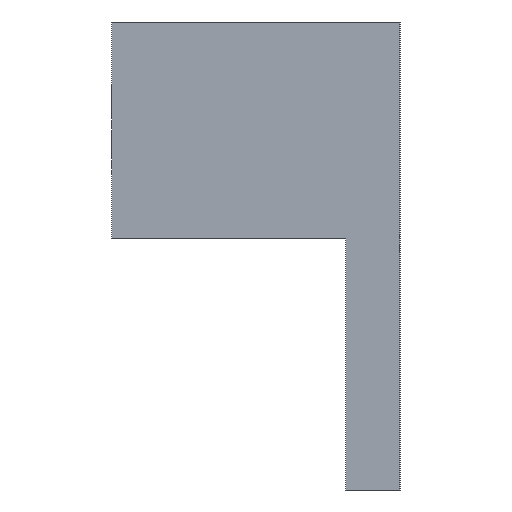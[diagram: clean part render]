
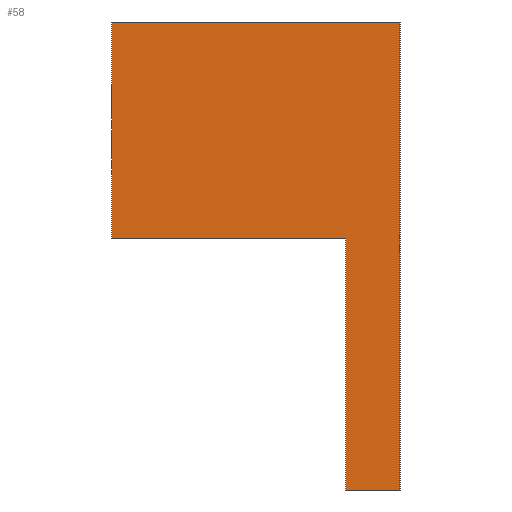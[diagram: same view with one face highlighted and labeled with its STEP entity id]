
A CAD part, left-side view. The second image highlights one B-rep face of the part: STEP entity #58.
In plain terms, the highlighted planar face has unit normal (-1, 0, 0).
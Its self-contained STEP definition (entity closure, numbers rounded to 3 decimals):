
#58 = ADVANCED_FACE( '', ( #114 ), #115, .F. );
#114 = FACE_OUTER_BOUND( '', #161, .T. );
#115 = PLANE( '', #162 );
#161 = EDGE_LOOP( '', ( #247, #248, #249, #250, #251, #252 ) );
#162 = AXIS2_PLACEMENT_3D( '', #253, #254, #255 );
#247 = ORIENTED_EDGE( '', *, *, #257, .F. );
#248 = ORIENTED_EDGE( '', *, *, #276, .F. );
#249 = ORIENTED_EDGE( '', *, *, #271, .F. );
#250 = ORIENTED_EDGE( '', *, *, #266, .F. );
#251 = ORIENTED_EDGE( '', *, *, #285, .F. );
#252 = ORIENTED_EDGE( '', *, *, #279, .F. );
#253 = CARTESIAN_POINT( '', ( -10., 0., 0. ) );
#254 = DIRECTION( '', ( 1., 0., 0. ) );
#255 = DIRECTION( '', ( 0., 0., -1. ) );
#257 = EDGE_CURVE( '', #291, #292, #293, .T. );
#266 = EDGE_CURVE( '', #306, #307, #308, .T. );
#271 = EDGE_CURVE( '', #307, #315, #316, .T. );
#276 = EDGE_CURVE( '', #315, #291, #323, .T. );
#279 = EDGE_CURVE( '', #292, #326, #327, .T. );
#285 = EDGE_CURVE( '', #326, #306, #334, .T. );
#291 = VERTEX_POINT( '', #341 );
#292 = VERTEX_POINT( '', #342 );
#293 = LINE( '', #343, #344 );
#306 = VERTEX_POINT( '', #360 );
#307 = VERTEX_POINT( '', #361 );
#308 = LINE( '', #362, #363 );
#315 = VERTEX_POINT( '', #373 );
#316 = LINE( '', #374, #375 );
#323 = LINE( '', #384, #385 );
#326 = VERTEX_POINT( '', #389 );
#327 = LINE( '', #390, #391 );
#334 = LINE( '', #401, #402 );
#341 = CARTESIAN_POINT( '', ( -10., 0., 6. ) );
#342 = CARTESIAN_POINT( '', ( -10., -16., 6. ) );
#343 = CARTESIAN_POINT( '', ( -10., 0., 6. ) );
#344 = VECTOR( '', #408, 1000. );
#360 = CARTESIAN_POINT( '', ( -10., -13., -20. ) );
#361 = CARTESIAN_POINT( '', ( -10., -13., -6. ) );
#362 = CARTESIAN_POINT( '', ( -10., -13., -20. ) );
#363 = VECTOR( '', #418, 1000. );
#373 = CARTESIAN_POINT( '', ( -10., 0., -6. ) );
#374 = CARTESIAN_POINT( '', ( -10., -13., -6. ) );
#375 = VECTOR( '', #422, 1000. );
#384 = CARTESIAN_POINT( '', ( -10., 0., -6. ) );
#385 = VECTOR( '', #428, 1000. );
#389 = CARTESIAN_POINT( '', ( -10., -16., -20. ) );
#390 = CARTESIAN_POINT( '', ( -10., -16., 6. ) );
#391 = VECTOR( '', #430, 1000. );
#401 = CARTESIAN_POINT( '', ( -10., -16., -20. ) );
#402 = VECTOR( '', #434, 1000. );
#408 = DIRECTION( '', ( 0., -1., 0. ) );
#418 = DIRECTION( '', ( 0., 0., 1. ) );
#422 = DIRECTION( '', ( 0., 1., 0. ) );
#428 = DIRECTION( '', ( 0., 0., 1. ) );
#430 = DIRECTION( '', ( 0., 0., -1. ) );
#434 = DIRECTION( '', ( 0., 1., 0. ) );
